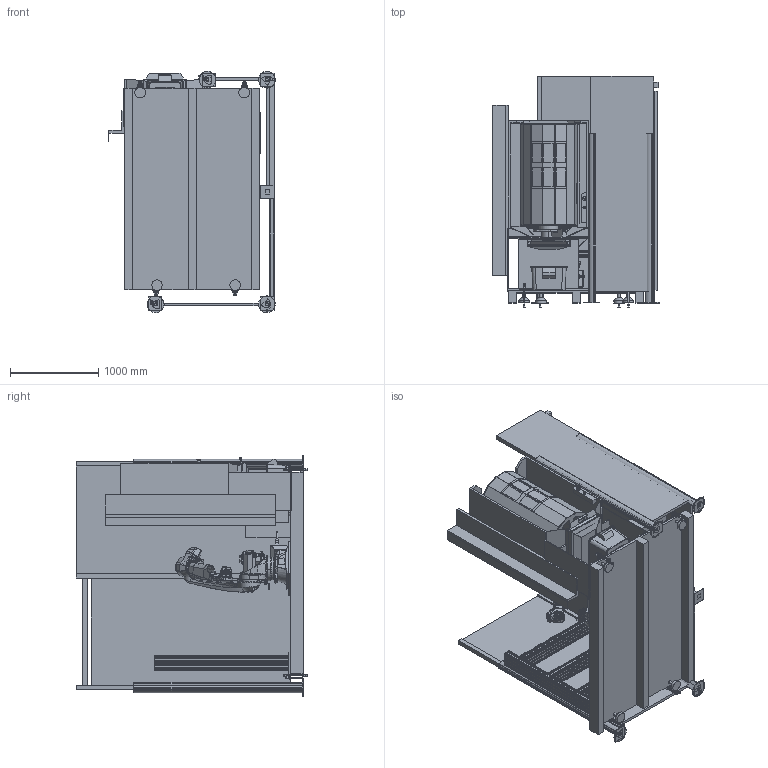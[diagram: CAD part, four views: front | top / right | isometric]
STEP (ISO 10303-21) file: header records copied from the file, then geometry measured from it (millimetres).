
FILE_DESCRIPTION (( 'STEP AP203' ), '1' );
FILE_NAME ('RPL_12_2024.STEP', '2024-12-13T02:01:14', ( '' ), ( '' ), 'SwSTEP 2.0', 'SolidWorks 2023', '' );
FILE_SCHEMA (( 'CONFIG_CONTROL_DESIGN' ));
Products named in the file (11): RPL- Fence; RPL- Pallet Shelves; RPL- Control Box; RPL- Operator Loading Station; RPL- Leveling Pads; RPL- Pallet; RPL- Robot 25KG; RPL_12_2024; RPL- Light Curtain; RPL- Zero Point Chuck; RPL- Zero Point Pallets
Assembly tree (10 placements, depth 2):
  RPL_12_2024
    RPL- Pallet
    RPL- Robot 25KG
    RPL- Pallet Shelves
    RPL- Control Box
    RPL- Zero Point Pallets
    RPL- Operator Loading Station
    RPL- Zero Point Chuck
    RPL- Leveling Pads
    RPL- Fence
    RPL- Light Curtain
Bounding box: 1889.74 x 2622.5 x 2739.2 mm (x, y, z)
Volume: 1028378412.3 mm3; surface area: 63758542.1 mm2
Topology: 32 solids, 33 shells, 7105 faces, 18812 edges, 11941 vertices
Faces by surface type: plane 3997, cylinder 1538, bspline 1040, cone 483, torus 45, sphere 2
Entity records: 279344 total; most frequent: CARTESIAN_POINT 110588, ORIENTED_EDGE 37532, DIRECTION 30893, EDGE_CURVE 18766, VERTEX_POINT 11939, VECTOR 11903, LINE 11903, AXIS2_PLACEMENT_3D 9495
